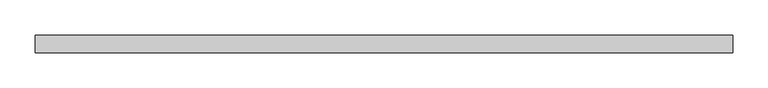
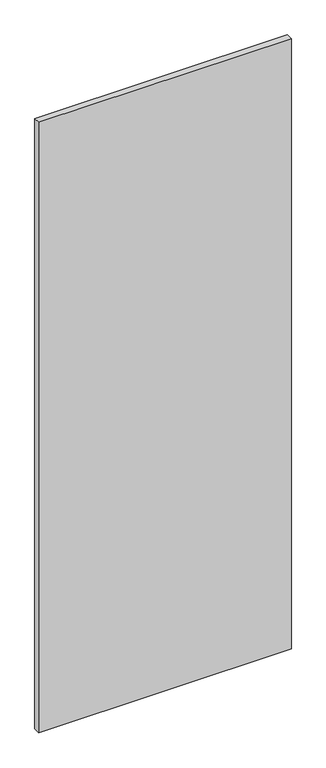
"""IFC4 building model written with IfcOpenShell, lengths in millimetres: plate geometry, 系统嵌板 : 玻璃."""

from ifc_helpers import new_model, si_unit, origin, origin_with_axes, place, context, project, spatial, polyline, outline, extrude, source, transform, mapped, element, save


def plate_fe0cc9e6(model_context):
    return source(origin(), model_context, "Body", "SweptSolid", [
        extrude(outline(polyline([(497.5, -12.5), (-497.5, -12.5), (-497.5, 12.5), (497.5, 12.5), (497.5, -12.5)])), origin_with_axes(), (0.0, 0.0, 1.0), 2540.0),
    ])


if __name__ == "__main__":
    model = new_model("IFC4")
    model_context = context("Model", 3, world=origin())
    ifc_project = project(units=[si_unit("LENGTHUNIT", "METRE", prefix="MILLI")], contexts=[model_context])
    site = spatial("IfcSite", under=ifc_project)
    building = spatial("IfcBuilding", under=site)
    placement = place(None, origin())
    plate_shape = plate_fe0cc9e6(model_context)
    element("IfcPlate", 1, ObjectType="系统嵌板 : 玻璃", at=placement, inside=building, context=model_context, shape_type="MappedRepresentation", body=[
        mapped(plate_shape, transform((0.0, 0.0, 0.0), x_axis=(1.0, 0.0, 0.0), y_axis=(0.0, 1.0, 0.0), z_axis=(0.0, 0.0, 1.0))),
    ])
    save(model, "model.ifc")
